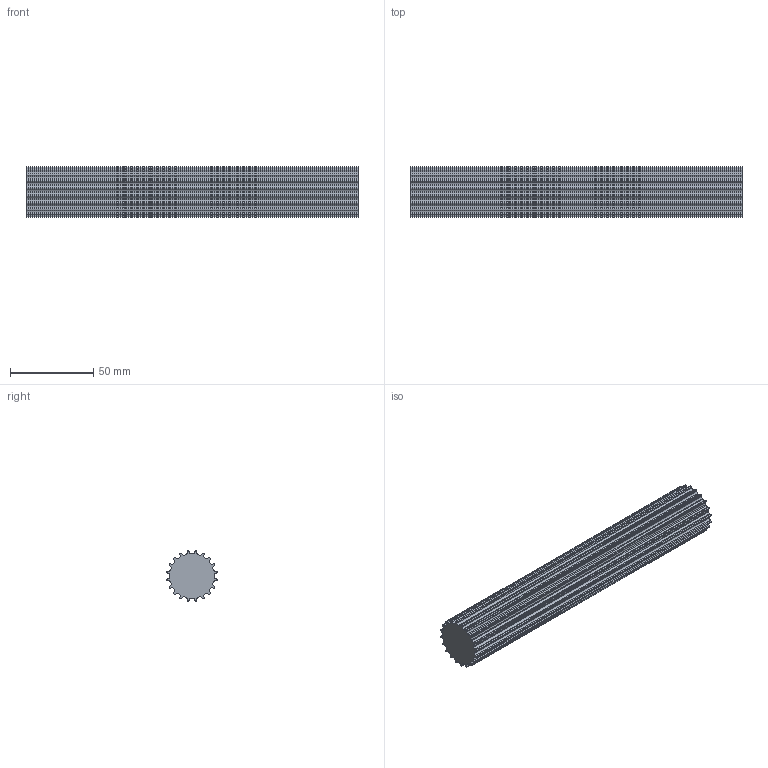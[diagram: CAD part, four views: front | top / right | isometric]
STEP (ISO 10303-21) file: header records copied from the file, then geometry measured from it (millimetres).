
FILE_DESCRIPTION( ( 'STEP AP214' ), '1' );
FILE_NAME( 'C:/Users/StangenbergN/Desktop/Steps Zahnriemenräder/K166_HTD-Zahnwellen/17292000.stp', '2019-06-06T09:41:09', ( '' ), ( '' ), ' ', 'PARTsolutions', ' ' );
FILE_SCHEMA( ( 'AUTOMOTIVE_DESIGN { 1 0 10303 214 1 1 1 1 }' ) );
Length unit declared in the file: millimetre
Products named in the file (1): _17292000
Bounding box: 200 x 30.35 x 30.35 mm (x, y, z)
Volume: 124138.9 mm3; surface area: 28221.1 mm2
Topology: 1 solids, 1 shells, 162 faces, 480 edges, 320 vertices
Faces by surface type: cylinder 100, plane 62
Entity records: 6816 total; most frequent: DIRECTION 1006, CARTESIAN_POINT 963, ORIENTED_EDGE 960, EDGE_CURVE 480, AXIS2_PLACEMENT_3D 363, VERTEX_POINT 320, LINE 280, VECTOR 280
